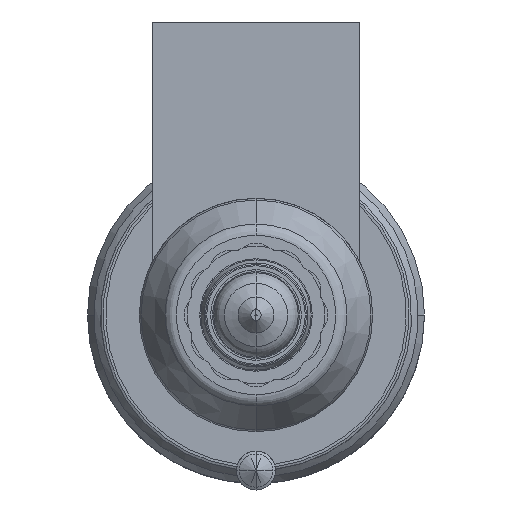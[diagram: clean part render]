
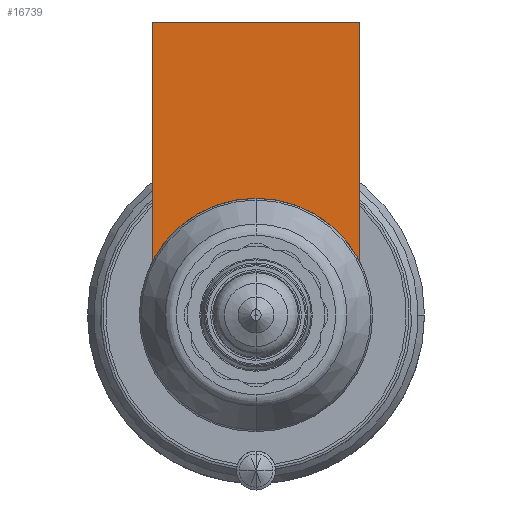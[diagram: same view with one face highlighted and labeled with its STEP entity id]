
A CAD part, front view. The second image highlights one B-rep face of the part: STEP entity #16739.
In plain terms, the highlighted planar face has unit normal (0, -1, 0).
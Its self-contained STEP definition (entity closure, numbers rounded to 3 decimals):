
#15265=DIRECTION('',(0.,0.,-1.));
#15266=VECTOR('',#15265,18.481);
#15267=CARTESIAN_POINT('',(-8.,-54.,22.604));
#15268=LINE('',#15267,#15266);
#15889=CARTESIAN_POINT('',(0.,-54.,0.));
#15890=DIRECTION('',(0.,-1.,0.));
#15891=DIRECTION('',(0.,0.,1.));
#15892=AXIS2_PLACEMENT_3D('',#15889,#15890,#15891);
#15897=DIRECTION('',(1.,0.,0.));
#15898=VECTOR('',#15897,16.);
#15899=CARTESIAN_POINT('',(-8.,-54.,22.604));
#15900=LINE('',#15899,#15898);
#15904=CARTESIAN_POINT('',(0.,-54.,0.));
#15905=DIRECTION('',(0.,-1.,0.));
#15906=DIRECTION('',(0.889,0.,0.458));
#15907=AXIS2_PLACEMENT_3D('',#15904,#15905,#15906);
#15988=DIRECTION('',(0.,0.,-1.));
#15989=VECTOR('',#15988,18.481);
#15990=CARTESIAN_POINT('',(8.,-54.,22.604));
#15991=LINE('',#15990,#15989);
#16097=CARTESIAN_POINT('',(-8.,-54.,22.604));
#16098=VERTEX_POINT('',#16097);
#16103=CARTESIAN_POINT('',(8.,-54.,22.604));
#16104=VERTEX_POINT('',#16103);
#16106=CARTESIAN_POINT('',(-8.,-54.,4.123));
#16108=VERTEX_POINT('',#16106);
#16110=CARTESIAN_POINT('',(8.,-54.,4.123));
#16112=VERTEX_POINT('',#16110);
#16113=CARTESIAN_POINT('',(0.,-54.,9.));
#16114=VERTEX_POINT('',#16113);
#16725=CARTESIAN_POINT('',(-8.,-54.,22.604));
#16726=DIRECTION('',(0.,-1.,0.));
#16727=DIRECTION('',(0.,0.,-1.));
#16728=AXIS2_PLACEMENT_3D('',#16725,#16726,#16727);
#16729=PLANE('',#16728);
#16730=ORIENTED_EDGE('',*,*,#16154,.T.);
#16731=ORIENTED_EDGE('',*,*,#16137,.F.);
#16733=ORIENTED_EDGE('',*,*,#16732,.T.);
#16735=ORIENTED_EDGE('',*,*,#16734,.T.);
#16736=ORIENTED_EDGE('',*,*,#16202,.T.);
#16737=EDGE_LOOP('',(#16730,#16731,#16733,#16735,#16736));
#16738=FACE_OUTER_BOUND('',#16737,.F.);
#16739=ADVANCED_FACE('',(#16738),#16729,.T.);
#15893=CIRCLE('',#15892,9.);
#15908=CIRCLE('',#15907,9.);
#16137=EDGE_CURVE('',#16098,#16108,#15268,.T.);
#16154=EDGE_CURVE('',#16114,#16108,#15893,.T.);
#16202=EDGE_CURVE('',#16112,#16114,#15908,.T.);
#16732=EDGE_CURVE('',#16098,#16104,#15900,.T.);
#16734=EDGE_CURVE('',#16104,#16112,#15991,.T.);
